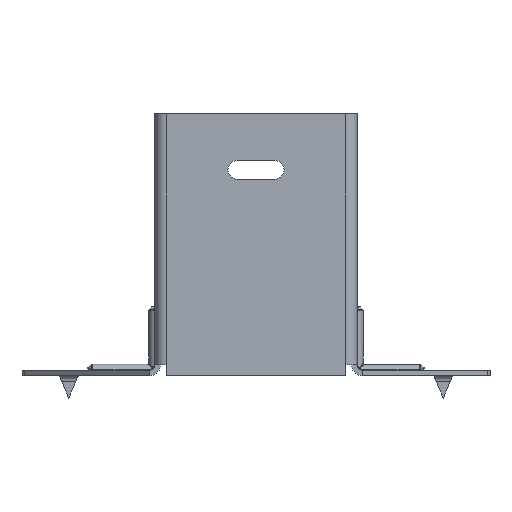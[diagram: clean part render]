
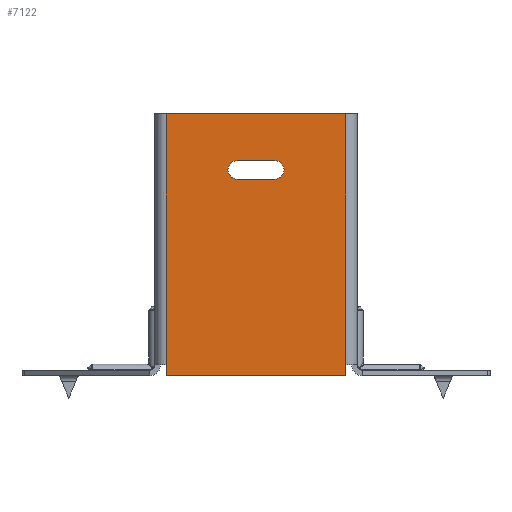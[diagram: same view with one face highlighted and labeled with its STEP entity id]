
A CAD part, front view. The second image highlights one B-rep face of the part: STEP entity #7122.
In plain terms, the highlighted planar face has unit normal (0, -1, 0).
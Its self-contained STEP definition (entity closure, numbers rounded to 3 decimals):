
#14 = CARTESIAN_POINT ( 'NONE',  ( 24., 0., 0. ) ) ;
#39 = ORIENTED_EDGE ( 'NONE', *, *, #7020, .T. ) ;
#109 = FACE_BOUND ( 'NONE', #10344, .T. ) ;
#510 = CARTESIAN_POINT ( 'NONE',  ( 24., 0., -70. ) ) ;
#1083 = CARTESIAN_POINT ( 'NONE',  ( 24., 0., -70. ) ) ;
#1226 = EDGE_CURVE ( 'NONE', #20025, #8953, #5258, .T. ) ;
#1757 = EDGE_CURVE ( 'NONE', #15179, #16376, #14478, .T. ) ;
#2321 = DIRECTION ( 'NONE',  ( 0., 1., 0. ) ) ;
#2441 = EDGE_CURVE ( 'NONE', #17690, #21716, #17496, .T. ) ;
#3246 = LINE ( 'NONE', #15380, #17201 ) ;
#3736 = ORIENTED_EDGE ( 'NONE', *, *, #1226, .T. ) ;
#3780 = CARTESIAN_POINT ( 'NONE',  ( 5., 0., -12.5 ) ) ;
#4024 = CARTESIAN_POINT ( 'NONE',  ( -5., 0., -12.5 ) ) ;
#4064 = EDGE_LOOP ( 'NONE', ( #3736, #39, #22160, #10799, #16441, #10125 ) ) ;
#4071 = DIRECTION ( 'NONE',  ( 0., 0., 1. ) ) ;
#4292 = VERTEX_POINT ( 'NONE', #14515 ) ;
#4620 = CARTESIAN_POINT ( 'NONE',  ( -24., 0., 0. ) ) ;
#5258 = LINE ( 'NONE', #14519, #7769 ) ;
#5838 = ORIENTED_EDGE ( 'NONE', *, *, #1757, .T. ) ;
#6413 = VECTOR ( 'NONE', #4071, 1000. ) ;
#6429 = AXIS2_PLACEMENT_3D ( 'NONE', #11576, #11791, #20382 ) ;
#6438 = VECTOR ( 'NONE', #7608, 1000. ) ;
#7020 = EDGE_CURVE ( 'NONE', #8953, #22842, #22933, .T. ) ;
#7070 = VECTOR ( 'NONE', #19907, 1000. ) ;
#7122 = ADVANCED_FACE ( 'NONE', ( #109, #7884 ), #10245, .F. ) ;
#7361 = LINE ( 'NONE', #18261, #7070 ) ;
#7608 = DIRECTION ( 'NONE',  ( -1., 0., 0. ) ) ;
#7769 = VECTOR ( 'NONE', #14439, 1000. ) ;
#7824 = CARTESIAN_POINT ( 'NONE',  ( -24., 0., -70. ) ) ;
#7884 = FACE_OUTER_BOUND ( 'NONE', #4064, .T. ) ;
#8398 = LINE ( 'NONE', #10740, #6438 ) ;
#8953 = VERTEX_POINT ( 'NONE', #9800 ) ;
#9413 = CARTESIAN_POINT ( 'NONE',  ( -25.5, 0., 0. ) ) ;
#9553 = CARTESIAN_POINT ( 'NONE',  ( 5., 0., -15. ) ) ;
#9641 = DIRECTION ( 'NONE',  ( 1., 0., 0. ) ) ;
#9748 = EDGE_CURVE ( 'NONE', #20025, #18632, #15658, .T. ) ;
#9800 = CARTESIAN_POINT ( 'NONE',  ( -24., 0., -67. ) ) ;
#9885 = EDGE_CURVE ( 'NONE', #16376, #17690, #10618, .T. ) ;
#10009 = CARTESIAN_POINT ( 'NONE',  ( -24., 0., 0. ) ) ;
#10029 = AXIS2_PLACEMENT_3D ( 'NONE', #9553, #2321, #14801 ) ;
#10125 = ORIENTED_EDGE ( 'NONE', *, *, #9748, .F. ) ;
#10245 = PLANE ( 'NONE',  #11177 ) ;
#10344 = EDGE_LOOP ( 'NONE', ( #21695, #5838, #20358, #18523 ) ) ;
#10618 = LINE ( 'NONE', #20319, #19273 ) ;
#10740 = CARTESIAN_POINT ( 'NONE',  ( -5., 0., -17.5 ) ) ;
#10799 = ORIENTED_EDGE ( 'NONE', *, *, #20908, .T. ) ;
#11177 = AXIS2_PLACEMENT_3D ( 'NONE', #13724, #12027, #18959 ) ;
#11576 = CARTESIAN_POINT ( 'NONE',  ( -5., 0., -15. ) ) ;
#11757 = CARTESIAN_POINT ( 'NONE',  ( 5., 0., -17.5 ) ) ;
#11791 = DIRECTION ( 'NONE',  ( 0., 1., 0. ) ) ;
#12027 = DIRECTION ( 'NONE',  ( 0., 1., 0. ) ) ;
#12847 = VECTOR ( 'NONE', #20245, 1000. ) ;
#13724 = CARTESIAN_POINT ( 'NONE',  ( 0., 0., 0. ) ) ;
#14114 = EDGE_CURVE ( 'NONE', #21716, #15179, #8398, .T. ) ;
#14439 = DIRECTION ( 'NONE',  ( 0., 0., -1. ) ) ;
#14478 = CIRCLE ( 'NONE', #6429, 2.5 ) ;
#14515 = CARTESIAN_POINT ( 'NONE',  ( 24., 0., -67. ) ) ;
#14519 = CARTESIAN_POINT ( 'NONE',  ( -24., 0., 0. ) ) ;
#14633 = EDGE_CURVE ( 'NONE', #4292, #18632, #16738, .T. ) ;
#14801 = DIRECTION ( 'NONE',  ( 0., 0., 1. ) ) ;
#15179 = VERTEX_POINT ( 'NONE', #15540 ) ;
#15380 = CARTESIAN_POINT ( 'NONE',  ( -25.5, 0., -70. ) ) ;
#15540 = CARTESIAN_POINT ( 'NONE',  ( -5., 0., -17.5 ) ) ;
#15658 = LINE ( 'NONE', #9413, #12847 ) ;
#15691 = DIRECTION ( 'NONE',  ( 0., 0., -1. ) ) ;
#15951 = VERTEX_POINT ( 'NONE', #1083 ) ;
#16376 = VERTEX_POINT ( 'NONE', #4024 ) ;
#16441 = ORIENTED_EDGE ( 'NONE', *, *, #14633, .T. ) ;
#16738 = LINE ( 'NONE', #510, #6413 ) ;
#17201 = VECTOR ( 'NONE', #20378, 1000. ) ;
#17496 = CIRCLE ( 'NONE', #10029, 2.5 ) ;
#17690 = VERTEX_POINT ( 'NONE', #3780 ) ;
#18261 = CARTESIAN_POINT ( 'NONE',  ( 24., 0., -70. ) ) ;
#18523 = ORIENTED_EDGE ( 'NONE', *, *, #2441, .T. ) ;
#18632 = VERTEX_POINT ( 'NONE', #14 ) ;
#18959 = DIRECTION ( 'NONE',  ( 0., 0., 1. ) ) ;
#19273 = VECTOR ( 'NONE', #9641, 1000. ) ;
#19907 = DIRECTION ( 'NONE',  ( 0., 0., 1. ) ) ;
#20025 = VERTEX_POINT ( 'NONE', #10009 ) ;
#20245 = DIRECTION ( 'NONE',  ( 1., 0., 0. ) ) ;
#20319 = CARTESIAN_POINT ( 'NONE',  ( -5., 0., -12.5 ) ) ;
#20358 = ORIENTED_EDGE ( 'NONE', *, *, #9885, .T. ) ;
#20378 = DIRECTION ( 'NONE',  ( -1., 0., 0. ) ) ;
#20382 = DIRECTION ( 'NONE',  ( 0., 0., 1. ) ) ;
#20908 = EDGE_CURVE ( 'NONE', #15951, #4292, #7361, .T. ) ;
#21695 = ORIENTED_EDGE ( 'NONE', *, *, #14114, .T. ) ;
#21716 = VERTEX_POINT ( 'NONE', #11757 ) ;
#22102 = VECTOR ( 'NONE', #15691, 1000. ) ;
#22160 = ORIENTED_EDGE ( 'NONE', *, *, #23018, .F. ) ;
#22842 = VERTEX_POINT ( 'NONE', #7824 ) ;
#22933 = LINE ( 'NONE', #4620, #22102 ) ;
#23018 = EDGE_CURVE ( 'NONE', #15951, #22842, #3246, .T. ) ;
